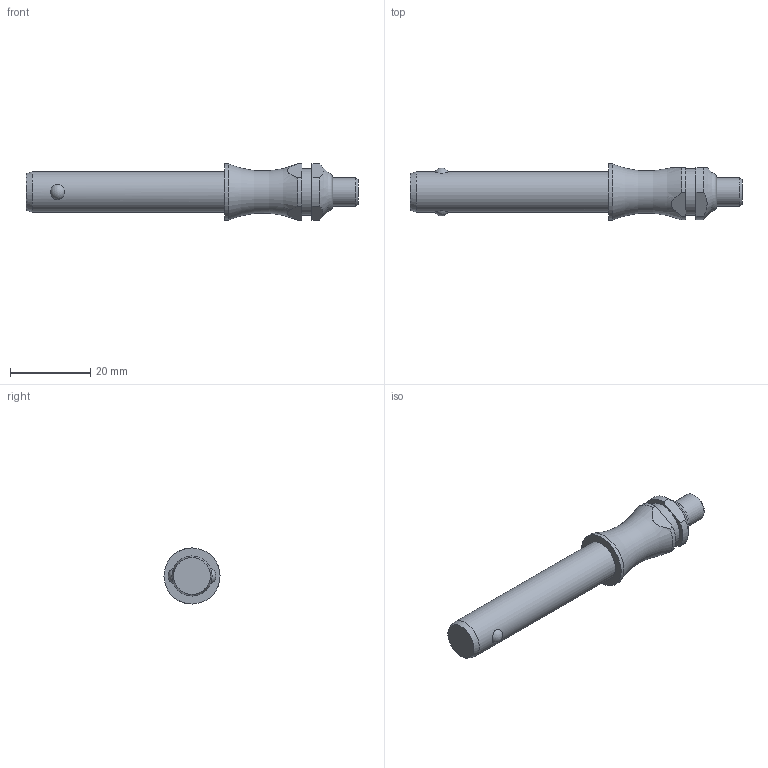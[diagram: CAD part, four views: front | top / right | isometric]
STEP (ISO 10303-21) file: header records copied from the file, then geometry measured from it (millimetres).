
FILE_DESCRIPTION( ( 'STEP AP203' ), '1' );
FILE_NAME( 'C:/Temp/Ganter_Step_05_03_2020/data/3_1/gn113_3/Stainless Steel-Ball lock pin GN 113.3-10-40 (deactivated).stp', '2020-03-12T08:18:33', ( 'License CC BY-ND 4.0' ), ( 'CADENAS' ), ' ', 'PARTsolutions', ' ' );
FILE_SCHEMA( ( 'CONFIG_CONTROL_DESIGN' ) );
Length unit declared in the file: millimetre
Products named in the file (1): _Stainless Steel-Ball lock pin GN 113.3-10-40 (deactivated)
Bounding box: 82.9 x 14 x 14 mm (x, y, z)
Volume: 7121 mm3; surface area: 3017.2 mm2
Topology: 1 solids, 1 shells, 28 faces, 60 edges, 39 vertices
Faces by surface type: plane 11, cylinder 10, cone 3, torus 2, sphere 2
Full cylindrical faces by diameter (mm): 7 x1, 10 x1, 11.6 x1, 14 x1
Entity records: 940 total; most frequent: CARTESIAN_POINT 327, DIRECTION 122, ORIENTED_EDGE 98, AXIS2_PLACEMENT_3D 52, EDGE_CURVE 49, EDGE_LOOP 42, VERTEX_POINT 37, FACE_OUTER_BOUND 34
